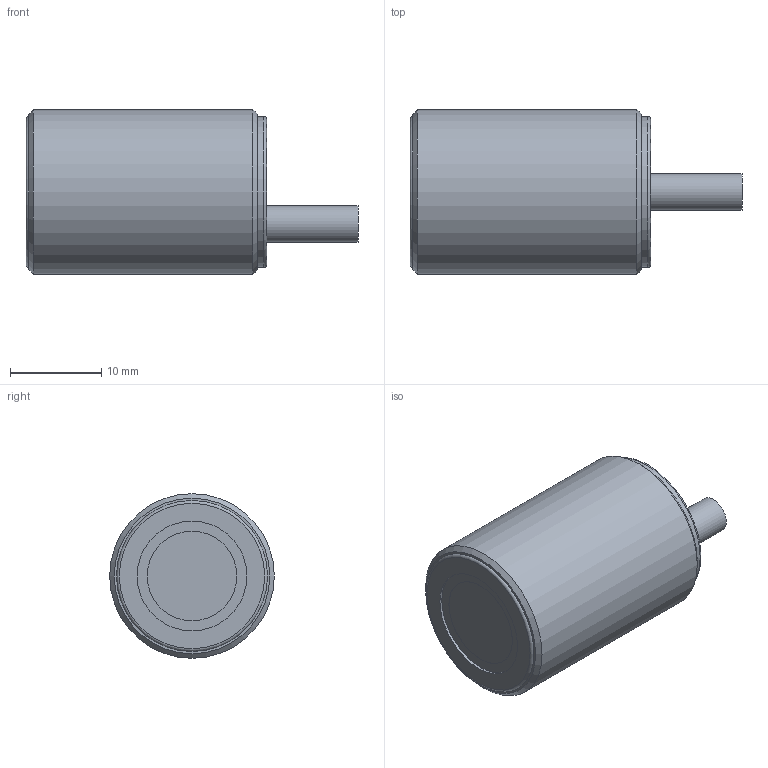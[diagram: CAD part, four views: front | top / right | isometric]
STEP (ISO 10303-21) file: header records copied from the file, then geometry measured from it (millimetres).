
FILE_DESCRIPTION((''),'2;1');
FILE_NAME('J:\Projekte\Kunststoff-Blechteile\Zeichnungen\Bibliothek Inventor\3D Solids\dbk+4\STP\dbk+4_ausg. Empf. M18.stp','2010-01-28T13:43:49',('Oliver Liedtke'),(''),'Autodesk Inventor 2009','Autodesk Inventor 2009','');
FILE_SCHEMA(('AUTOMOTIVE_DESIGN { 1 0 10303 214 1 1 1 1 }'));
Length unit declared in the file: millimetre
Products named in the file (1): dbk+4_ausg.Empf_M18
Bounding box: 36.3 x 18 x 18 mm (x, y, z)
Volume: 6694.1 mm3; surface area: 2117.2 mm2
Topology: 1 solids, 1 shells, 21 faces, 36 edges, 23 vertices
Faces by surface type: plane 12, cylinder 5, torus 2, cone 2
Full cylindrical faces by diameter (mm): 4 x1, 9.8 x1, 12 x1, 16.5 x1, 18 x1
Entity records: 534 total; most frequent: DIRECTION 86, CARTESIAN_POINT 72, ORIENTED_EDGE 54, AXIS2_PLACEMENT_3D 37, EDGE_LOOP 36, EDGE_CURVE 27, VERTEX_POINT 23, FACE_OUTER_BOUND 21
